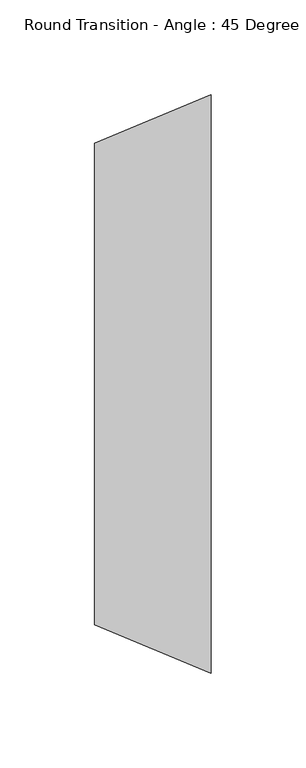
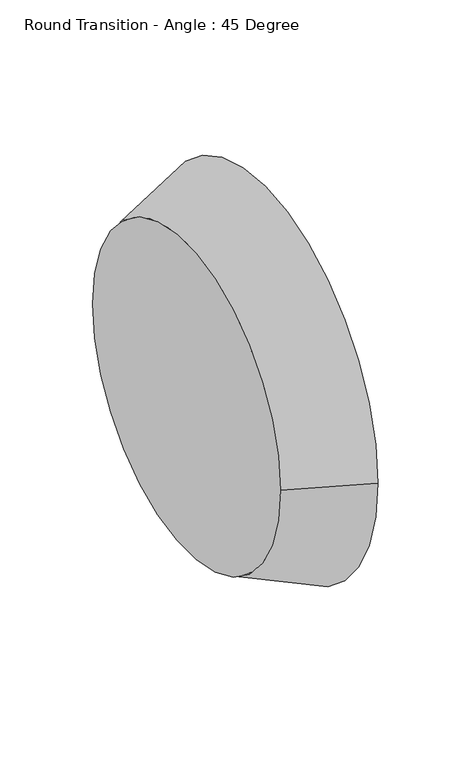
"""IFC4 building model written with IfcOpenShell, lengths in millimetres: duct fitting geometry, Round Transition - Angle : 45 Degree."""

from ifc_helpers import new_model, si_unit, frame, origin, place, context, project, spatial, polyline, circle_curve, source, transform, mapped, element, save
from ifc_brep_helpers import plane_surface, revolved_surface, advanced_brep


def round_transition_angle_45_degree_4f060a6f(model_context):
    return source(origin(), model_context, "Body", "AdvancedBrep", [
        advanced_brep(
        [(61.3210245, -152.4, 0.0), (61.3210245, 152.4, 0.0), (0.0, -127.0, 0.0), (0.0, 127.0, 0.0)],
        [
            (0, 1, circle_curve(frame((61.3210245, 0.0, 0.0), z_axis=(1.0, 0.0, 0.0), x_axis=(0.0, -1.0, 0.0)), 152.4)),
            (1, 0, circle_curve(frame((61.3210245, 0.0, 0.0), z_axis=(1.0, 0.0, 0.0), x_axis=(0.0, 1.0, 0.0)), 152.4)),
            (2, 3, circle_curve(frame((0.0, 0.0, 0.0), z_axis=(-1.0, 0.0, 0.0), x_axis=(0.0, 1.0, 0.0)), 127.0)),
            (3, 2, circle_curve(frame((0.0, 0.0, 0.0), z_axis=(-1.0, 0.0, 0.0), x_axis=(0.0, -1.0, 0.0)), 127.0)),
            (3, 1),
            (0, 2),
        ],
        [
            plane_surface(frame((61.3210245, 0.0, 0.0), z_axis=(1.0, 0.0, 0.0), x_axis=(0.0, 0.0, -1.0))),
            plane_surface(frame((0.0, 0.0, 0.0), z_axis=(-1.0, 0.0, 0.0), x_axis=(0.0, 0.0, -1.0))),
            revolved_surface(polyline([(0.0, 126.99999999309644, 0.0), (61.32102450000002, 152.4, 0.0)]), (-306.6051224, 0.0, 0.0), (1.0, 0.0, 0.0)),
            revolved_surface(polyline([(0.0, -126.99999999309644, 0.0), (61.32102450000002, -152.4, 0.0)]), (-306.6051224, 0.0, 0.0), (1.0, 0.0, 0.0)),
        ],
        [
            (0, [[1, 2]]),
            (1, [[3, 4]]),
            (2, [[-4, 5, -1, 6]]),
            (3, [[-3, -6, -2, -5]]),
        ],
    ),
    ])


if __name__ == "__main__":
    model = new_model("IFC4")
    model_context = context("Model", 3, world=origin())
    ifc_project = project(units=[si_unit("LENGTHUNIT", "METRE", prefix="MILLI")], contexts=[model_context])
    site = spatial("IfcSite", under=ifc_project)
    building = spatial("IfcBuilding", under=site)
    placement = place(None, origin())
    round_transition_angle_45_degree_shape = round_transition_angle_45_degree_4f060a6f(model_context)
    element("IfcDuctFitting", 1, ObjectType="Round Transition - Angle : 45 Degree", at=placement, inside=building, context=model_context, shape_type="MappedRepresentation", body=[
        mapped(round_transition_angle_45_degree_shape, transform((0.0, 0.0, 0.0), x_axis=(1.0, 0.0, 0.0), y_axis=(0.0, 1.0, 0.0), z_axis=(0.0, 0.0, 1.0))),
    ])
    save(model, "model.ifc")
